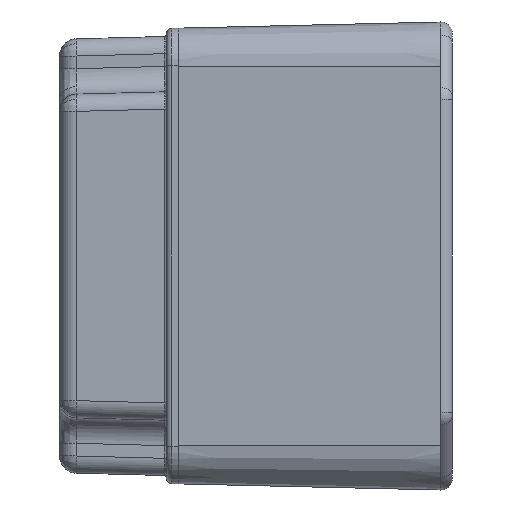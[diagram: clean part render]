
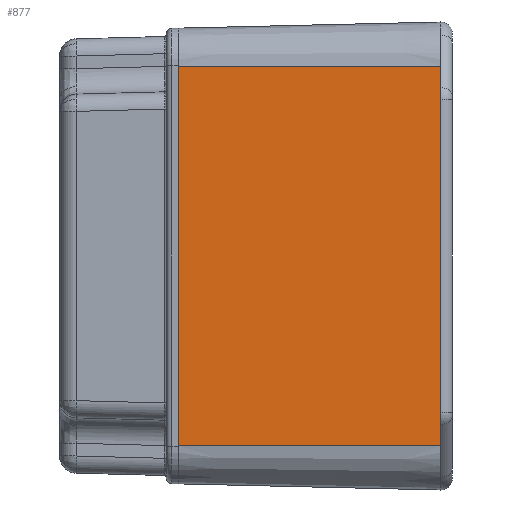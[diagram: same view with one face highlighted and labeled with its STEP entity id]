
A CAD part, left-side view. The second image highlights one B-rep face of the part: STEP entity #877.
In plain terms, the highlighted planar face has unit normal (-1, 0.023, 0).
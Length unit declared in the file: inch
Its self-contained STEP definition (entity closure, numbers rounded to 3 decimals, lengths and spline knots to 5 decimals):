
#877 = ADVANCED_FACE ( 'NONE', ( #3454 ), #11229, .T. ) ;
#3454 = FACE_OUTER_BOUND ( 'NONE', #14748, .T. ) ;
#4284 = CARTESIAN_POINT ( 'NONE',  ( -4.19998, -2.885, -2.086 ) ) ;
#4285 = CARTESIAN_POINT ( 'NONE',  ( -4.19998, -2.885, 2.086 ) ) ;
#4306 = CARTESIAN_POINT ( 'NONE',  ( -4.1325, 0., 2.086 ) ) ;
#4308 = CARTESIAN_POINT ( 'NONE',  ( -4.1325, 0., -2.086 ) ) ;
#11226 = DIRECTION ( 'NONE',  ( -0.023, -1., 0. ) ) ;
#11227 = DIRECTION ( 'NONE',  ( -1., 0.023, 0. ) ) ;
#11229 = PLANE ( 'NONE',  #17047 ) ;
#11230 = CARTESIAN_POINT ( 'NONE',  ( -4.1325, 0., -2.086 ) ) ;
#14619 = VERTEX_POINT ( 'NONE', #4308 ) ;
#14620 = VERTEX_POINT ( 'NONE', #4306 ) ;
#14632 = VERTEX_POINT ( 'NONE', #4285 ) ;
#14633 = VERTEX_POINT ( 'NONE', #4284 ) ;
#14748 = EDGE_LOOP ( 'NONE', ( #26037, #26036, #26035, #26034 ) ) ;
#17047 = AXIS2_PLACEMENT_3D ( 'NONE', #11230, #11227, #11226 ) ;
#20538 = EDGE_CURVE ( 'NONE', #14633, #14632, #21376, .T. ) ;
#20549 = EDGE_CURVE ( 'NONE', #14632, #14620, #21382, .T. ) ;
#20551 = EDGE_CURVE ( 'NONE', #14633, #14619, #21395, .T. ) ;
#20552 = EDGE_CURVE ( 'NONE', #14619, #14620, #21397, .T. ) ;
#21366 = VECTOR ( 'NONE', #29233, 39.37008 ) ;
#21376 = LINE ( 'NONE', #29227, #21366 ) ;
#21382 = LINE ( 'NONE', #29262, #21388 ) ;
#21388 = VECTOR ( 'NONE', #29263, 39.37008 ) ;
#21395 = LINE ( 'NONE', #29266, #21396 ) ;
#21396 = VECTOR ( 'NONE', #29267, 39.37008 ) ;
#21397 = LINE ( 'NONE', #29268, #21398 ) ;
#21398 = VECTOR ( 'NONE', #29269, 39.37008 ) ;
#26034 = ORIENTED_EDGE ( 'NONE', *, *, #20549, .T. ) ;
#26035 = ORIENTED_EDGE ( 'NONE', *, *, #20538, .T. ) ;
#26036 = ORIENTED_EDGE ( 'NONE', *, *, #20551, .F. ) ;
#26037 = ORIENTED_EDGE ( 'NONE', *, *, #20552, .F. ) ;
#29227 = CARTESIAN_POINT ( 'NONE',  ( -4.19998, -2.885, 2.086 ) ) ;
#29233 = DIRECTION ( 'NONE',  ( 0., 0., 1. ) ) ;
#29262 = CARTESIAN_POINT ( 'NONE',  ( -4.1325, 0., 2.086 ) ) ;
#29263 = DIRECTION ( 'NONE',  ( 0.023, 1., 0. ) ) ;
#29266 = CARTESIAN_POINT ( 'NONE',  ( -4.1325, 0., -2.086 ) ) ;
#29267 = DIRECTION ( 'NONE',  ( 0.023, 1., 0. ) ) ;
#29268 = CARTESIAN_POINT ( 'NONE',  ( -4.1325, 0., -2.086 ) ) ;
#29269 = DIRECTION ( 'NONE',  ( 0., 0., 1. ) ) ;
